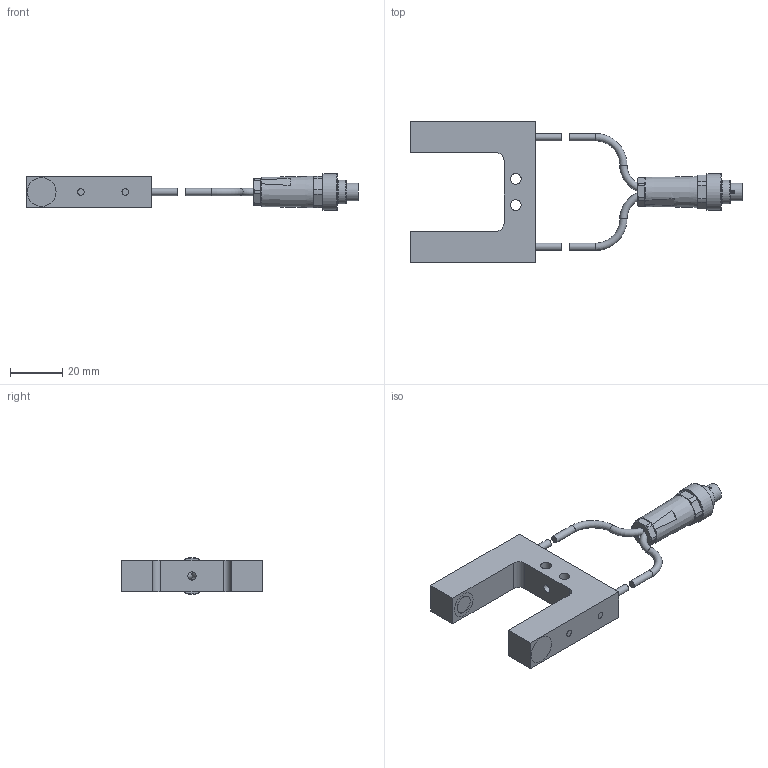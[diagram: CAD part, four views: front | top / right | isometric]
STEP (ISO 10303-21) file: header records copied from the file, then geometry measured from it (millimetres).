
FILE_DESCRIPTION(/* description */ (''),/* implementation_level */ '2;1');
FILE_NAME(/* name */ 'H:\ZVW\Inventor\E-Mail-Zeichnungen\STEP\HOMEPAGE\A-LAS-F12-...-30_30-C_0720_00.stp',/* time_stamp */ '2014-08-18T14:33:53+02:00',/* author */ ('TK-01'),/* organization */ (''),/* preprocessor_version */ 'ST-DEVELOPER v15.2',/* originating_system */ 'Autodesk Inventor 2014',/* authorisation */ '');
FILE_SCHEMA (('AUTOMOTIVE_DESIGN { 1 0 10303 214 3 1 1 }'));
Length unit declared in the file: millimetre
Products named in the file (1): Bauteil6
Bounding box: 127.1 x 54 x 14 mm (x, y, z)
Volume: 39824 mm3; surface area: 16951.5 mm2
Topology: 5 solids, 12 shells, 160 faces, 352 edges, 232 vertices
Faces by surface type: plane 72, cylinder 60, cone 11, sphere 9, torus 6, bspline 2
Full cylindrical faces by diameter (mm): 0.5 x7, 2.5 x8, 2.8 x4, 2.9 x2, 3.2 x1, 4.1 x2, 5.5 x1, 6 x1, 6.8 x1, 7.1 x1, 7.15 x2, 7.5 x1, 8 x1, 9 x2, 10 x2, 14 x1
Entity records: 4363 total; most frequent: CARTESIAN_POINT 933, DIRECTION 708, ORIENTED_EDGE 544, AXIS2_PLACEMENT_3D 310, EDGE_CURVE 268, EDGE_LOOP 250, VERTEX_POINT 204, ADVANCED_FACE 160
